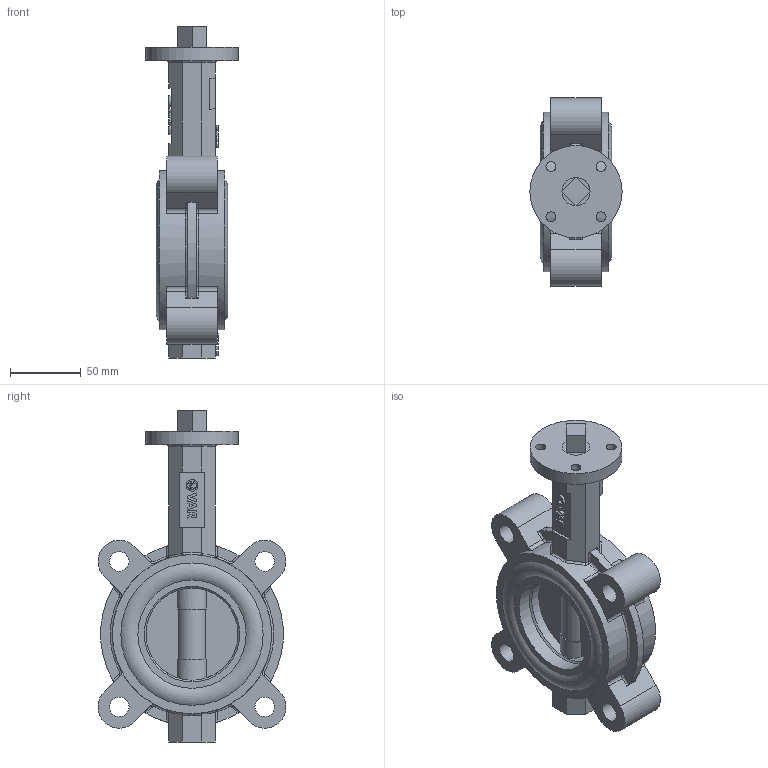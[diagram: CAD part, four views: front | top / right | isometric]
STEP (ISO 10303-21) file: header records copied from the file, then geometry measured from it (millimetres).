
FILE_DESCRIPTION(('STEP AP242'), '1');
FILE_NAME('Ïîâîðîòíûé çàòâîð ïîä ýëåêòðîïðèâîä', '', ('UNSPECIFIED'), ('UNSPECIFIED'), 'C3D Converter', 'C3D Toolkit', '');
FILE_SCHEMA(('AP242_MANAGED_MODEL_BASED_3D_ENGINEERING_MIM_LF { 1 0 10303 442 1 1 4 }'));
Length unit declared in the file: millimetre
Products named in the file (6): П
Assembly tree (6 placements, depth 2):
  (unnamed)
    (unnamed)
    П  x2
    (unnamed)
    (unnamed)
    (unnamed)
Bounding box: 65 x 132.42 x 234 mm (x, y, z)
Volume: 583939 mm3; surface area: 157364.7 mm2
Topology: 6 solids, 6 shells, 521 faces, 1370 edges, 883 vertices
Faces by surface type: plane 208, extrusion 151, cylinder 109, torus 34, bspline 8, sphere 7, cone 4
Full cylindrical faces by diameter (mm): 7 x4, 8.223 x1, 13.835 x4, 14 x5, 15.4 x1, 19.799 x5, 22.087 x4, 65 x2, 67.275 x2, 76.375 x2, 88.354 x4, 100.333 x4, 112.283 x2
Entity records: 21619 total; most frequent: CARTESIAN_POINT 7275, ORIENTED_EDGE 2618, DIRECTION 2037, EDGE_CURVE 1309, VERTEX_POINT 878, VECTOR 807, LINE 656, EDGE_LOOP 623
